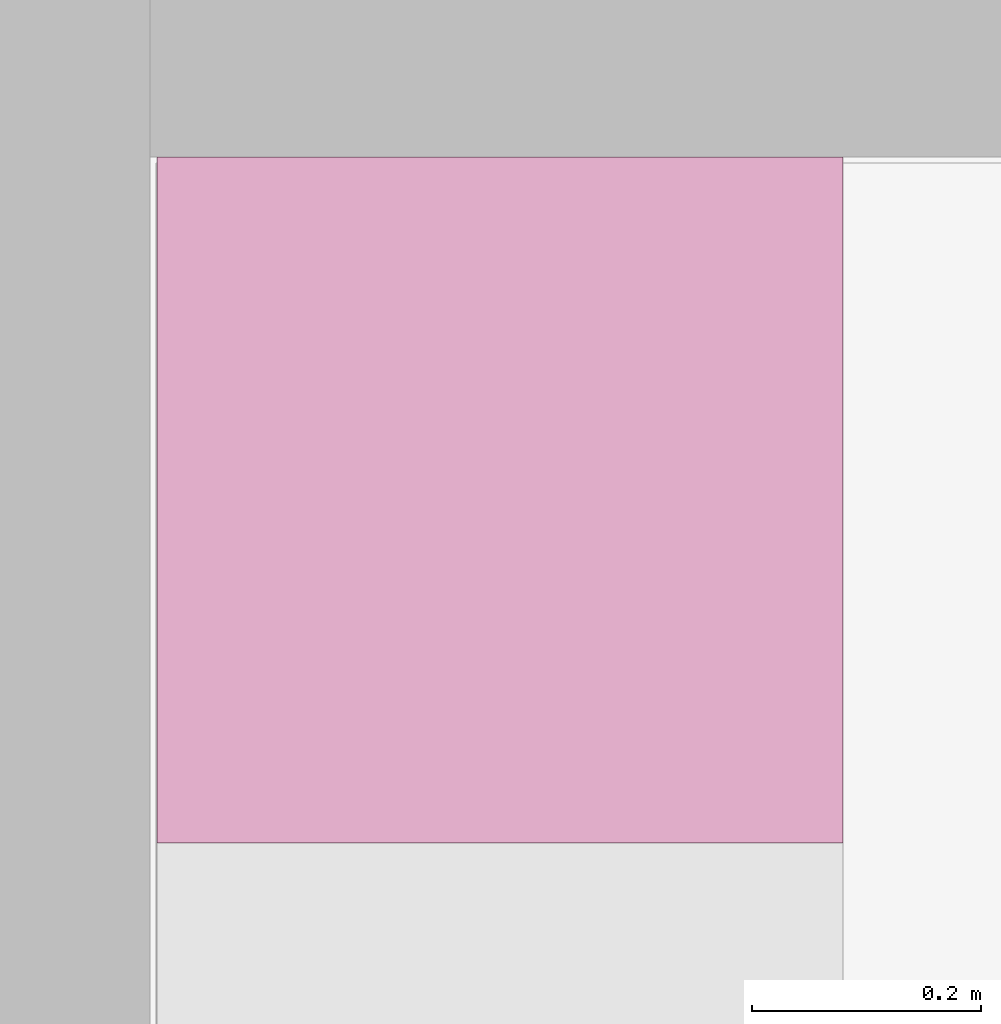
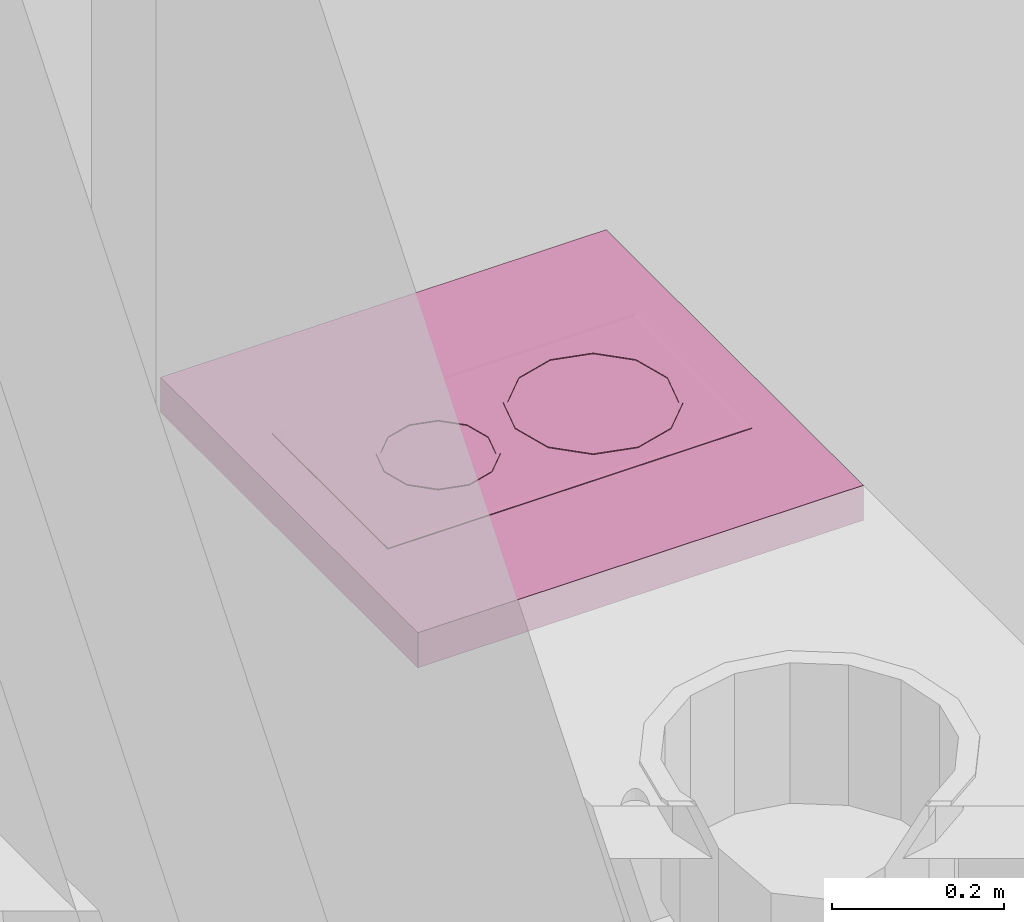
# One storey, part 153 of 165: 1 furnishing.
"""IFC2X3 building model written with IfcOpenShell, lengths in millimetres."""

from ifc_helpers import new_model, entity, si_unit, converted_unit, money_unit, direction, frame, origin_with_axes, place, context, subcontext, project, spatial, faceted_brep, source, transform, mapped, material, material_list, type_object, element, save


model = new_model("IFC2X3")

# Units and contexts
model_context = context("Model", 3, precision=1e-05, world=origin_with_axes(), true_north=direction((0.0, 1.0)))
body_context = subcontext(model_context, "Body", "Model", "MODEL_VIEW")
ifc_project = project(units=[si_unit("LENGTHUNIT", "METRE", prefix="MILLI"), si_unit("AREAUNIT", "SQUARE_METRE"), si_unit("VOLUMEUNIT", "CUBIC_METRE"), converted_unit("PLANEANGLEUNIT", "DEGREE", entity("IfcPlaneAngleMeasure", 0.0174532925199), si_unit("PLANEANGLEUNIT", "RADIAN"), dimensions=[0, 0, 0, 0, 0, 0, 0]), si_unit("SOLIDANGLEUNIT", "STERADIAN"), money_unit("USD"), converted_unit("TIMEUNIT", "Year", entity("IfcTimeMeasure", 31556926.0), si_unit("TIMEUNIT", "SECOND"), dimensions=[0, 0, 0, 0, 0, 0, 0]), si_unit("MASSUNIT", "GRAM"), si_unit("THERMODYNAMICTEMPERATUREUNIT", "DEGREE_CELSIUS"), si_unit("LUMINOUSINTENSITYUNIT", "LUMEN")], contexts=[model_context])

# Site, building, storey
site_placement = place(None, origin_with_axes())
site = spatial("IfcSite", under=ifc_project, at=site_placement, Name="Site", CompositionType="ELEMENT")
building_placement = place(site_placement, origin_with_axes())
building = spatial("IfcBuilding", under=site, at=building_placement, Name="Building", CompositionType="ELEMENT")
storey_placement = place(building_placement, frame((0.0, 0.0, 6300.0), z_axis=(0.0, 0.0, 1.0), x_axis=(1.0, 0.0, 0.0)))
storey = spatial("IfcBuildingStorey", under=building, at=storey_placement, Name="4KORRUS", CompositionType="ELEMENT", Elevation=6300.0)

# Furnishing
ifc_material = material(Name="Background")
ifc_material_list = material_list([ifc_material])
furnishing_element_type = type_object("IfcFurnishingElementType", Name="Built-in Cooktops 19")
shared_shape = source(origin_with_axes(), body_context, "Body", "Brep", [
    faceted_brep([(0.0, 0.0, 850.0), (0.0, 0.0, 900.0), (-600.0, 0.0, 900.0), (-600.0, 0.0, 850.0), (0.0, 600.0, 850.0), (0.0, 600.0, 900.0), (-600.0, 600.0, 900.0), (-600.0, 600.0, 850.0)], [[[0, 1, 2, 3]], [[4, 5, 1, 0]], [[1, 5, 6, 2]], [[3, 2, 6, 7]], [[0, 3, 7, 4]], [[7, 6, 5, 4]]]),
    faceted_brep([(-165.0, 55.0, 900.0), (-435.0, 55.0, 900.0), (-435.0, 545.0, 900.0), (-165.0, 545.0, 900.0), (-165.0, 55.0, 900.8), (-435.0, 55.0, 900.8), (-435.0, 545.0, 900.8), (-165.0, 545.0, 900.8), (-171.806, 61.806, 902.0), (-428.194, 61.806, 902.0), (-428.194, 538.194, 902.0), (-171.806, 538.194, 902.0)], [[[0, 1, 2, 3]], [[0, 4, 5, 1]], [[1, 5, 6, 2]], [[2, 6, 7, 3]], [[3, 7, 4, 0]], [[4, 8, 9, 5]], [[5, 9, 10, 6]], [[6, 10, 11, 7]], [[7, 11, 8, 4]], [[10, 9, 8, 11]]]),
    faceted_brep([(-195.0, 409.27, 902.0), (-195.0, 409.27, 903.0), (-209.067, 356.77, 903.0), (-209.067, 356.77, 902.0), (-209.067, 461.77, 902.0), (-209.067, 461.77, 903.0), (-247.5, 500.203, 903.0), (-300.0, 514.27, 903.0), (-352.5, 500.203, 903.0), (-390.933, 461.77, 903.0), (-405.0, 409.27, 903.0), (-390.933, 356.77, 903.0), (-352.5, 318.337, 903.0), (-300.0, 304.27, 903.0), (-247.5, 318.337, 903.0), (-200.0, 409.27, 903.0), (-213.397, 359.27, 903.0), (-250.0, 322.667, 903.0), (-300.0, 309.27, 903.0), (-350.0, 322.667, 903.0), (-386.603, 359.27, 903.0), (-400.0, 409.27, 903.0), (-386.603, 459.27, 903.0), (-350.0, 495.873, 903.0), (-300.0, 509.27, 903.0), (-250.0, 495.873, 903.0), (-213.397, 459.27, 903.0), (-247.5, 318.337, 902.0), (-300.0, 304.27, 902.0), (-352.5, 318.337, 902.0), (-390.933, 356.77, 902.0), (-405.0, 409.27, 902.0), (-390.933, 461.77, 902.0), (-352.5, 500.203, 902.0), (-300.0, 514.27, 902.0), (-247.5, 500.203, 902.0), (-200.0, 409.27, 902.0), (-213.397, 459.27, 902.0), (-250.0, 495.873, 902.0), (-300.0, 509.27, 902.0), (-350.0, 495.873, 902.0), (-386.603, 459.27, 902.0), (-400.0, 409.27, 902.0), (-386.603, 359.27, 902.0), (-350.0, 322.667, 902.0), (-300.0, 309.27, 902.0), (-250.0, 322.667, 902.0), (-213.397, 359.27, 902.0)], [[[0, 1, 2, 3]], [[4, 5, 1, 0]], [[1, 5, 6, 7, 8, 9, 10, 11, 12, 13, 14, 2], [15, 16, 17, 18, 19, 20, 21, 22, 23, 24, 25, 26]], [[3, 2, 14, 27]], [[0, 3, 27, 28, 29, 30, 31, 32, 33, 34, 35, 4], [36, 37, 38, 39, 40, 41, 42, 43, 44, 45, 46, 47]], [[35, 6, 5, 4]], [[34, 7, 6, 35]], [[33, 8, 7, 34]], [[32, 9, 8, 33]], [[31, 10, 9, 32]], [[30, 11, 10, 31]], [[29, 12, 11, 30]], [[28, 13, 12, 29]], [[27, 14, 13, 28]], [[47, 16, 15, 36]], [[46, 17, 16, 47]], [[45, 18, 17, 46]], [[44, 19, 18, 45]], [[43, 20, 19, 44]], [[42, 21, 20, 43]], [[41, 22, 21, 42]], [[40, 23, 22, 41]], [[39, 24, 23, 40]], [[38, 25, 24, 39]], [[37, 26, 25, 38]], [[36, 15, 26, 37]]]),
    faceted_brep([(-227.5, 200.53, 902.0), (-227.5, 200.53, 903.0), (-237.213, 164.28, 903.0), (-237.213, 164.28, 902.0), (-237.213, 236.78, 902.0), (-237.213, 236.78, 903.0), (-263.75, 263.317, 903.0), (-300.0, 273.03, 903.0), (-336.25, 263.317, 903.0), (-362.787, 236.78, 903.0), (-372.5, 200.53, 903.0), (-362.787, 164.28, 903.0), (-336.25, 137.743, 903.0), (-300.0, 128.03, 903.0), (-263.75, 137.743, 903.0), (-232.5, 200.53, 903.0), (-241.543, 166.78, 903.0), (-266.25, 142.073, 903.0), (-300.0, 133.03, 903.0), (-333.75, 142.073, 903.0), (-358.457, 166.78, 903.0), (-367.5, 200.53, 903.0), (-358.457, 234.28, 903.0), (-333.75, 258.987, 903.0), (-300.0, 268.03, 903.0), (-266.25, 258.987, 903.0), (-241.543, 234.28, 903.0), (-263.75, 137.743, 902.0), (-300.0, 128.03, 902.0), (-336.25, 137.743, 902.0), (-362.787, 164.28, 902.0), (-372.5, 200.53, 902.0), (-362.787, 236.78, 902.0), (-336.25, 263.317, 902.0), (-300.0, 273.03, 902.0), (-263.75, 263.317, 902.0), (-232.5, 200.53, 902.0), (-241.543, 234.28, 902.0), (-266.25, 258.987, 902.0), (-300.0, 268.03, 902.0), (-333.75, 258.987, 902.0), (-358.457, 234.28, 902.0), (-367.5, 200.53, 902.0), (-358.457, 166.78, 902.0), (-333.75, 142.073, 902.0), (-300.0, 133.03, 902.0), (-266.25, 142.073, 902.0), (-241.543, 166.78, 902.0)], [[[0, 1, 2, 3]], [[4, 5, 1, 0]], [[1, 5, 6, 7, 8, 9, 10, 11, 12, 13, 14, 2], [15, 16, 17, 18, 19, 20, 21, 22, 23, 24, 25, 26]], [[3, 2, 14, 27]], [[0, 3, 27, 28, 29, 30, 31, 32, 33, 34, 35, 4], [36, 37, 38, 39, 40, 41, 42, 43, 44, 45, 46, 47]], [[35, 6, 5, 4]], [[34, 7, 6, 35]], [[33, 8, 7, 34]], [[32, 9, 8, 33]], [[31, 10, 9, 32]], [[30, 11, 10, 31]], [[29, 12, 11, 30]], [[28, 13, 12, 29]], [[27, 14, 13, 28]], [[47, 16, 15, 36]], [[46, 17, 16, 47]], [[45, 18, 17, 46]], [[44, 19, 18, 45]], [[43, 20, 19, 44]], [[42, 21, 20, 43]], [[41, 22, 21, 42]], [[40, 23, 22, 41]], [[39, 24, 23, 40]], [[38, 25, 24, 39]], [[37, 26, 25, 38]], [[36, 15, 26, 37]]]),
])
furnishing_placement = place(storey_placement, frame((-29984.008308, -13789.2398994, 0.0), z_axis=(0.0, 0.0, 1.0), x_axis=(0.0, -1.0, 0.0)))
element("IfcFurnishingElement", 1, at=furnishing_placement, inside=storey, type_object=furnishing_element_type, material=ifc_material_list, Name="FU - 007", context=body_context, shape_type="MappedRepresentation", body=[
    mapped(shared_shape, transform((0.0, 0.0, 0.0))),
])

save(model, "model.ifc")
